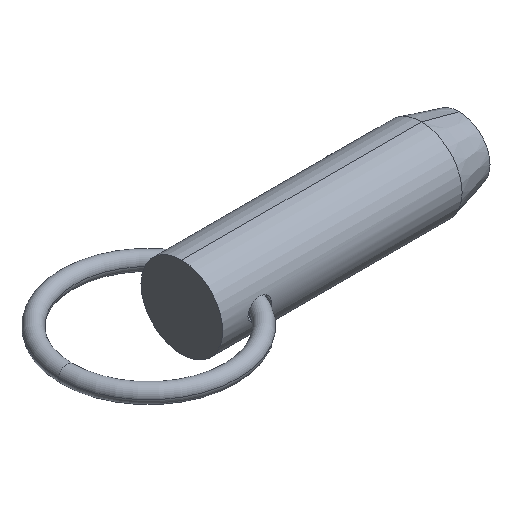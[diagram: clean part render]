
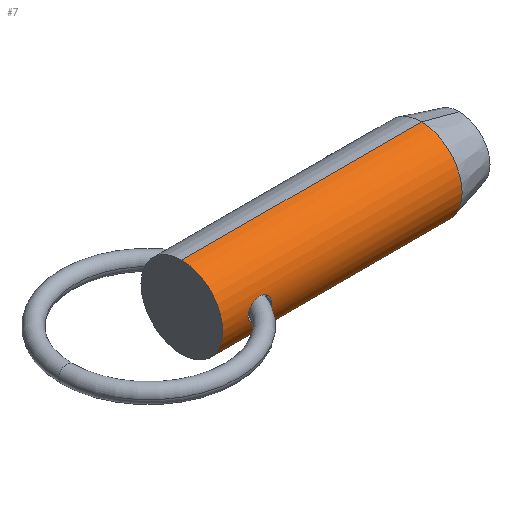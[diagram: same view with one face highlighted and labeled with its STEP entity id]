
A CAD part, isometric view. The second image highlights one B-rep face of the part: STEP entity #7.
In plain terms, the highlighted cylindrical face has radius 7.94 mm (diameter 15.88 mm), a partial arc.
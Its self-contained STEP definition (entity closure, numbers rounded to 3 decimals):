
#3 = EDGE_CURVE ( 'NONE', #64, #325, #232, .T. ) ;
#7 = ADVANCED_FACE ( 'NONE', ( #435, #153 ), #233, .T. ) ;
#11 = CARTESIAN_POINT ( 'NONE',  ( 9.056, -7.835, -1.291 ) ) ;
#16 = CARTESIAN_POINT ( 'NONE',  ( 9.53, -7.94, -0.281 ) ) ;
#57 = CARTESIAN_POINT ( 'NONE',  ( 5.321, -7.873, 1.035 ) ) ;
#64 = VERTEX_POINT ( 'NONE', #303 ) ;
#66 = CARTESIAN_POINT ( 'NONE',  ( 8.958, -7.817, 1.395 ) ) ;
#81 = CARTESIAN_POINT ( 'NONE',  ( 7.427, -7.687, -1.989 ) ) ;
#96 = CARTESIAN_POINT ( 'NONE',  ( 5.616, -7.828, -1.332 ) ) ;
#123 = CARTESIAN_POINT ( 'NONE',  ( 8.385, -7.736, 1.788 ) ) ;
#125 = AXIS2_PLACEMENT_3D ( 'NONE', #843, #376, #713 ) ;
#130 = CARTESIAN_POINT ( 'NONE',  ( 9.515, -7.936, 0.283 ) ) ;
#139 = DIRECTION ( 'NONE',  ( 0., 0., -1. ) ) ;
#142 = CARTESIAN_POINT ( 'NONE',  ( 46.572, 0., 0. ) ) ;
#143 = CARTESIAN_POINT ( 'NONE',  ( 6.205, -7.754, -1.708 ) ) ;
#146 = CARTESIAN_POINT ( 'NONE',  ( 4.929, -7.94, -0.142 ) ) ;
#153 = FACE_BOUND ( 'NONE', #483, .T. ) ;
#186 = ORIENTED_EDGE ( 'NONE', *, *, #3, .T. ) ;
#191 = CARTESIAN_POINT ( 'NONE',  ( 4.929, -7.94, 0. ) ) ;
#192 = EDGE_CURVE ( 'NONE', #576, #474, #421, .T. ) ;
#196 = CARTESIAN_POINT ( 'NONE',  ( 9.294, -7.884, 0.949 ) ) ;
#199 = AXIS2_PLACEMENT_3D ( 'NONE', #495, #821, #139 ) ;
#209 = B_SPLINE_CURVE_WITH_KNOTS ( 'NONE', 3,
 ( #191, #678, #543, #272, #57, #326, #896, #420, #764, #605, #686, #553, #411, #476, #752, #611, #888, #263, #123, #404, #211, #66, #548, #825, #196, #413, #481, #130, #689, #693 ),
 .UNSPECIFIED., .F., .F.,
 ( 4, 2, 2, 2, 2, 2, 2, 2, 2, 2, 2, 2, 2, 2, 4 ),
 ( 0., 0.001, 0.002, 0.002, 0.003, 0.003, 0.003, 0.004, 0.005, 0.005, 0.005, 0.006, 0.006, 0.007, 0.007 ),
 .UNSPECIFIED. ) ;
#211 = CARTESIAN_POINT ( 'NONE',  ( 8.746, -7.782, 1.577 ) ) ;
#220 = CARTESIAN_POINT ( 'NONE',  ( 7.006, -7.692, -1.967 ) ) ;
#225 = CARTESIAN_POINT ( 'NONE',  ( 9.224, -7.869, -1.067 ) ) ;
#226 = EDGE_CURVE ( 'NONE', #325, #64, #209, .T. ) ;
#230 = DIRECTION ( 'NONE',  ( 0., 0., -1. ) ) ;
#232 = B_SPLINE_CURVE_WITH_KNOTS ( 'NONE', 3,
 ( #299, #16, #792, #297, #225, #11, #789, #286, #292, #509, #782, #709, #81, #220, #565, #775, #143, #355, #725, #96, #569, #635, #846, #854, #502, #777, #146, #366 ),
 .UNSPECIFIED., .F., .F.,
 ( 4, 2, 2, 2, 2, 2, 2, 2, 2, 2, 2, 2, 2, 4 ),
 ( 0.007, 0.008, 0.008, 0.009, 0.01, 0.01, 0.011, 0.011, 0.012, 0.012, 0.013, 0.013, 0.013, 0.014 ),
 .UNSPECIFIED. ) ;
#233 = CYLINDRICAL_SURFACE ( 'NONE', #125, 7.94 ) ;
#263 = CARTESIAN_POINT ( 'NONE',  ( 8.253, -7.723, 1.843 ) ) ;
#272 = CARTESIAN_POINT ( 'NONE',  ( 5.235, -7.887, 0.922 ) ) ;
#286 = CARTESIAN_POINT ( 'NONE',  ( 8.642, -7.766, -1.666 ) ) ;
#292 = CARTESIAN_POINT ( 'NONE',  ( 8.391, -7.734, -1.801 ) ) ;
#297 = CARTESIAN_POINT ( 'NONE',  ( 9.297, -7.885, -0.945 ) ) ;
#299 = CARTESIAN_POINT ( 'NONE',  ( 9.53, -7.94, 0. ) ) ;
#303 = CARTESIAN_POINT ( 'NONE',  ( 9.53, -7.94, 0. ) ) ;
#311 = CARTESIAN_POINT ( 'NONE',  ( 46.572, 0., 7.94 ) ) ;
#325 = VERTEX_POINT ( 'NONE', #580 ) ;
#326 = CARTESIAN_POINT ( 'NONE',  ( 5.513, -7.843, 1.24 ) ) ;
#332 = EDGE_CURVE ( 'NONE', #850, #604, #840, .T. ) ;
#333 = ORIENTED_EDGE ( 'NONE', *, *, #192, .T. ) ;
#355 = CARTESIAN_POINT ( 'NONE',  ( 5.958, -7.782, -1.576 ) ) ;
#366 = CARTESIAN_POINT ( 'NONE',  ( 4.929, -7.94, 0. ) ) ;
#376 = DIRECTION ( 'NONE',  ( 1., 0., 0. ) ) ;
#404 = CARTESIAN_POINT ( 'NONE',  ( 8.631, -7.766, 1.655 ) ) ;
#407 = VECTOR ( 'NONE', #469, 1000. ) ;
#411 = CARTESIAN_POINT ( 'NONE',  ( 6.734, -7.709, 1.9 ) ) ;
#413 = CARTESIAN_POINT ( 'NONE',  ( 9.412, -7.911, 0.691 ) ) ;
#420 = CARTESIAN_POINT ( 'NONE',  ( 5.84, -7.797, 1.5 ) ) ;
#421 = CIRCLE ( 'NONE', #199, 7.94 ) ;
#435 = FACE_OUTER_BOUND ( 'NONE', #518, .T. ) ;
#444 = EDGE_CURVE ( 'NONE', #576, #850, #841, .T. ) ;
#459 = LINE ( 'NONE', #473, #407 ) ;
#463 = CARTESIAN_POINT ( 'NONE',  ( 0., 0., 7.94 ) ) ;
#469 = DIRECTION ( 'NONE',  ( 1., 0., 0. ) ) ;
#473 = CARTESIAN_POINT ( 'NONE',  ( 0., 0., -7.94 ) ) ;
#474 = VERTEX_POINT ( 'NONE', #587 ) ;
#476 = CARTESIAN_POINT ( 'NONE',  ( 7.009, -7.695, 1.956 ) ) ;
#481 = CARTESIAN_POINT ( 'NONE',  ( 9.456, -7.922, 0.558 ) ) ;
#483 = EDGE_LOOP ( 'NONE', ( #609, #186 ) ) ;
#495 = CARTESIAN_POINT ( 'NONE',  ( 0., 0., 0. ) ) ;
#496 = ORIENTED_EDGE ( 'NONE', *, *, #718, .T. ) ;
#502 = CARTESIAN_POINT ( 'NONE',  ( 5.031, -7.922, -0.552 ) ) ;
#509 = CARTESIAN_POINT ( 'NONE',  ( 7.987, -7.703, -1.924 ) ) ;
#518 = EDGE_LOOP ( 'NONE', ( #697, #333, #496, #612 ) ) ;
#523 = VECTOR ( 'NONE', #596, 1000. ) ;
#543 = CARTESIAN_POINT ( 'NONE',  ( 5.018, -7.924, 0.563 ) ) ;
#548 = CARTESIAN_POINT ( 'NONE',  ( 9.056, -7.835, 1.292 ) ) ;
#553 = CARTESIAN_POINT ( 'NONE',  ( 6.597, -7.719, 1.861 ) ) ;
#555 = CARTESIAN_POINT ( 'NONE',  ( 46.572, 0., -7.94 ) ) ;
#565 = CARTESIAN_POINT ( 'NONE',  ( 6.727, -7.708, -1.908 ) ) ;
#569 = CARTESIAN_POINT ( 'NONE',  ( 5.512, -7.843, -1.239 ) ) ;
#576 = VERTEX_POINT ( 'NONE', #630 ) ;
#580 = CARTESIAN_POINT ( 'NONE',  ( 4.929, -7.94, 0. ) ) ;
#587 = CARTESIAN_POINT ( 'NONE',  ( 0., 0., -7.94 ) ) ;
#596 = DIRECTION ( 'NONE',  ( 1., 0., 0. ) ) ;
#604 = VERTEX_POINT ( 'NONE', #555 ) ;
#605 = CARTESIAN_POINT ( 'NONE',  ( 6.206, -7.754, 1.709 ) ) ;
#609 = ORIENTED_EDGE ( 'NONE', *, *, #226, .T. ) ;
#611 = CARTESIAN_POINT ( 'NONE',  ( 7.565, -7.685, 1.996 ) ) ;
#612 = ORIENTED_EDGE ( 'NONE', *, *, #332, .F. ) ;
#630 = CARTESIAN_POINT ( 'NONE',  ( 0., 0., 7.94 ) ) ;
#635 = CARTESIAN_POINT ( 'NONE',  ( 5.321, -7.873, -1.034 ) ) ;
#678 = CARTESIAN_POINT ( 'NONE',  ( 4.929, -7.94, 0.284 ) ) ;
#684 = AXIS2_PLACEMENT_3D ( 'NONE', #142, #853, #230 ) ;
#686 = CARTESIAN_POINT ( 'NONE',  ( 6.334, -7.741, 1.766 ) ) ;
#689 = CARTESIAN_POINT ( 'NONE',  ( 9.53, -7.94, 0.141 ) ) ;
#693 = CARTESIAN_POINT ( 'NONE',  ( 9.53, -7.94, 0. ) ) ;
#697 = ORIENTED_EDGE ( 'NONE', *, *, #444, .F. ) ;
#709 = CARTESIAN_POINT ( 'NONE',  ( 7.57, -7.688, -1.985 ) ) ;
#713 = DIRECTION ( 'NONE',  ( 0., 0., -1. ) ) ;
#718 = EDGE_CURVE ( 'NONE', #474, #604, #459, .T. ) ;
#725 = CARTESIAN_POINT ( 'NONE',  ( 5.839, -7.798, -1.5 ) ) ;
#752 = CARTESIAN_POINT ( 'NONE',  ( 7.147, -7.691, 1.974 ) ) ;
#764 = CARTESIAN_POINT ( 'NONE',  ( 5.959, -7.782, 1.576 ) ) ;
#775 = CARTESIAN_POINT ( 'NONE',  ( 6.333, -7.741, -1.765 ) ) ;
#777 = CARTESIAN_POINT ( 'NONE',  ( 4.95, -7.936, -0.28 ) ) ;
#782 = CARTESIAN_POINT ( 'NONE',  ( 7.849, -7.696, -1.952 ) ) ;
#789 = CARTESIAN_POINT ( 'NONE',  ( 8.961, -7.818, -1.392 ) ) ;
#792 = CARTESIAN_POINT ( 'NONE',  ( 9.469, -7.924, -0.563 ) ) ;
#821 = DIRECTION ( 'NONE',  ( 1., 0., 0. ) ) ;
#825 = CARTESIAN_POINT ( 'NONE',  ( 9.223, -7.869, 1.069 ) ) ;
#840 = CIRCLE ( 'NONE', #684, 7.94 ) ;
#841 = LINE ( 'NONE', #463, #523 ) ;
#843 = CARTESIAN_POINT ( 'NONE',  ( 0., 0., 0. ) ) ;
#846 = CARTESIAN_POINT ( 'NONE',  ( 5.234, -7.887, -0.922 ) ) ;
#850 = VERTEX_POINT ( 'NONE', #311 ) ;
#853 = DIRECTION ( 'NONE',  ( 1., 0., 0. ) ) ;
#854 = CARTESIAN_POINT ( 'NONE',  ( 5.09, -7.912, -0.682 ) ) ;
#888 = CARTESIAN_POINT ( 'NONE',  ( 7.852, -7.693, 1.965 ) ) ;
#896 = CARTESIAN_POINT ( 'NONE',  ( 5.617, -7.828, 1.332 ) ) ;
